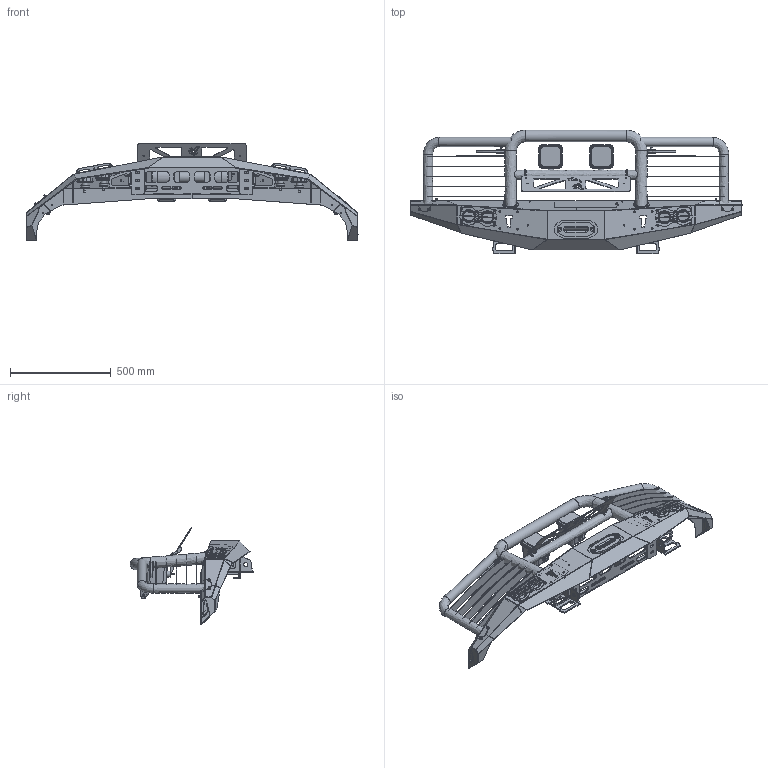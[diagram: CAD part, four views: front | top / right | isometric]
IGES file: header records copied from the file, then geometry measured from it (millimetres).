
Start section:  Autodesk DirectConnect version 8.0.53.0 ---- IGES version 5.3
Bounding box: 1651.46 x 614.71 x 483.23 mm (x, y, z)
Surface area: 4072359.3 mm2 (no closed solid volume)
Topology: 0 solids, 0 shells, 4019 faces, 28272 edges, 28045 vertices
Faces by surface type: bspline 4019
